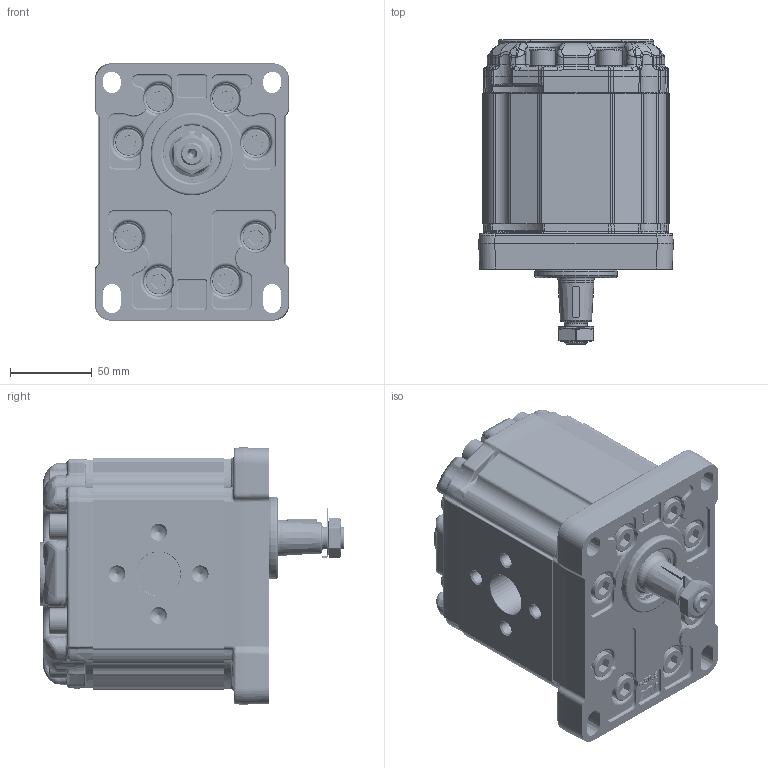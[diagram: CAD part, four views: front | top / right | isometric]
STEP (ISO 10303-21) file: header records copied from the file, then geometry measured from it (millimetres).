
FILE_DESCRIPTION(/* description */ ('Unknown'),/* implementation_level */ '2;1');
FILE_NAME(/* name */ 'X3R7401ABBF',/* time_stamp */ '2026-06-04T19:15:49+02:00',/* author */ ('Unknown'),/* organization */ ('Unknown'),/* preprocessor_version */ 'ST-DEVELOPER v16.7',/* originating_system */ 'Solid Edge',/* authorisation */ 'Unknown');
FILE_SCHEMA (('AUTOMOTIVE_DESIGN {1 0 10303 214 3 1 1}'));
Products named in the file (5): X3R7401ABBF; X3R01; 3A; X3BBH80; XR301-F
Assembly tree (4 placements, depth 2):
  X3R7401ABBF
    X3R01
    3A
    X3BBH80
    XR301-F
Bounding box: 119.2 x 187 x 157.8 mm (x, y, z)
Volume: 1996168.4 mm3; surface area: 222408.3 mm2
Topology: 4 solids, 5 shells, 4559 faces, 13979 edges, 8733 vertices
Faces by surface type: cylinder 1831, plane 1376, bspline 988, torus 200, cone 151, sphere 13
Full cylindrical faces by diameter (mm): 2 x2, 8.376 x8, 10 x16, 10.35 x30, 10.5 x1, 14 x2, 15.8 x16, 16 x16, 22 x1, 24.98 x1, 25 x2, 25.968 x1, 27 x2, 28.16 x1, 31 x1, 31.293 x1, 32.742 x1, 34.956 x1, 35 x1, 35.2 x1, 37 x1, 50.8 x1
Entity records: 308900 total; most frequent: CARTESIAN_POINT 162969, ORIENTED_EDGE 26974, DIRECTION 20260, EDGE_CURVE 13487, VERTEX_POINT 8590, AXIS2_PLACEMENT_3D 7730, FACE_BOUND 5031, EDGE_LOOP 5021
